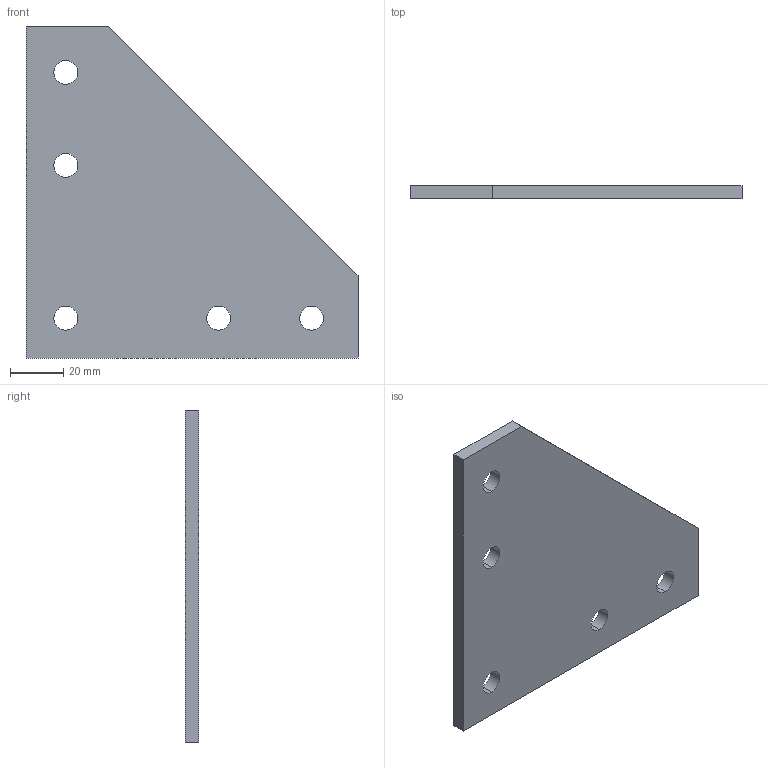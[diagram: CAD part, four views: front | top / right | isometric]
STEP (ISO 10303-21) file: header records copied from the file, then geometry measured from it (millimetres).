
FILE_DESCRIPTION (( 'STEP AP214' ), '1' );
FILE_NAME ('ÂØÀÅ.741114.019-01 Êîñûíêà.STEP', '2024-04-17T13:11:06', ( '' ), ( '' ), 'SwSTEP 2.0', 'SolidWorks 2019', '' );
FILE_SCHEMA (( 'AUTOMOTIVE_DESIGN' ));
Length unit declared in the file: millimetre
Products named in the file (1): ÂØÀÅ.741114.019-01 Êîñûíêà
Bounding box: 125 x 5 x 125 mm (x, y, z)
Volume: 54444.6 mm3; surface area: 24709.4 mm2
Topology: 1 solids, 1 shells, 17 faces, 45 edges, 30 vertices
Faces by surface type: cylinder 10, plane 7
Entity records: 593 total; most frequent: DIRECTION 101, CARTESIAN_POINT 93, ORIENTED_EDGE 90, EDGE_CURVE 45, AXIS2_PLACEMENT_3D 38, VERTEX_POINT 30, EDGE_LOOP 27, VECTOR 25
